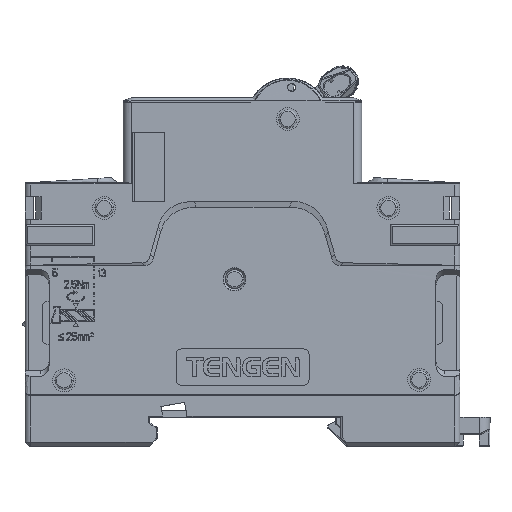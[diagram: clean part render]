
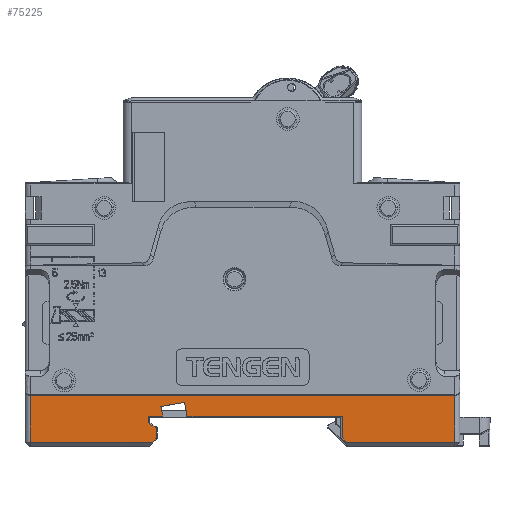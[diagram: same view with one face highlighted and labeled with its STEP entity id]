
A CAD part, left-side view. The second image highlights one B-rep face of the part: STEP entity #75225.
In plain terms, the highlighted planar face has unit normal (-1, 0, 0) as drawn and (0, 0, -1) by its records, which use the part's own axes.
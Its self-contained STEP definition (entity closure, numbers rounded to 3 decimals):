
#129 = VECTOR ( 'NONE', #210156, 1000. ) ;
#4464 = CARTESIAN_POINT ( 'NONE',  ( 52.39, 5.7, -14.2 ) ) ;
#7066 = CARTESIAN_POINT ( 'NONE',  ( 52.39, 5.7, -14.2 ) ) ;
#7176 = VECTOR ( 'NONE', #8109, 1000. ) ;
#7590 = CARTESIAN_POINT ( 'NONE',  ( 56.96, 5.7, -14.2 ) ) ;
#8109 = DIRECTION ( 'NONE',  ( 0.985, -0.174, 0. ) ) ;
#11420 = EDGE_CURVE ( 'NONE', #61239, #123619, #56031, .T. ) ;
#11960 = EDGE_CURVE ( 'NONE', #181299, #130968, #116634, .T. ) ;
#13525 = CARTESIAN_POINT ( 'NONE',  ( 59.655, 4.393, -14.2 ) ) ;
#14341 = ORIENTED_EDGE ( 'NONE', *, *, #20191, .T. ) ;
#14707 = DIRECTION ( 'NONE',  ( 1., 0., 0. ) ) ;
#14850 = ORIENTED_EDGE ( 'NONE', *, *, #93795, .F. ) ;
#20075 = ORIENTED_EDGE ( 'NONE', *, *, #95408, .F. ) ;
#20191 = EDGE_CURVE ( 'NONE', #103214, #181299, #58068, .T. ) ;
#21743 = CARTESIAN_POINT ( 'NONE',  ( 22.472, 0.8, -14.2 ) ) ;
#22197 = ORIENTED_EDGE ( 'NONE', *, *, #200316, .F. ) ;
#22971 = CARTESIAN_POINT ( 'NONE',  ( 2.105, 9.5, -14.2 ) ) ;
#24652 = EDGE_CURVE ( 'NONE', #103214, #190295, #38803, .T. ) ;
#28622 = VECTOR ( 'NONE', #186472, 1000. ) ;
#29593 = CARTESIAN_POINT ( 'NONE',  ( 59.655, 5.7, -14.2 ) ) ;
#30566 = DIRECTION ( 'NONE',  ( -1., 0., 0. ) ) ;
#31331 = VERTEX_POINT ( 'NONE', #154437 ) ;
#33677 = VECTOR ( 'NONE', #39914, 1000. ) ;
#38367 = LINE ( 'NONE', #21743, #81478 ) ;
#38803 = LINE ( 'NONE', #4464, #33677 ) ;
#39914 = DIRECTION ( 'NONE',  ( 0.174, 0.985, 0. ) ) ;
#43618 = DIRECTION ( 'NONE',  ( -1., 0., 0. ) ) ;
#44229 = DIRECTION ( 'NONE',  ( 0., 1., 0. ) ) ;
#47277 = VERTEX_POINT ( 'NONE', #29593 ) ;
#47918 = CARTESIAN_POINT ( 'NONE',  ( 23.255, 5.7, -14.2 ) ) ;
#56031 = LINE ( 'NONE', #189156, #129 ) ;
#56308 = VERTEX_POINT ( 'NONE', #195537 ) ;
#57295 = LINE ( 'NONE', #192557, #106983 ) ;
#58068 = LINE ( 'NONE', #7066, #164354 ) ;
#60121 = CARTESIAN_POINT ( 'NONE',  ( 81.805, 9.5, -14.2 ) ) ;
#60745 = VECTOR ( 'NONE', #180007, 1000. ) ;
#61239 = VERTEX_POINT ( 'NONE', #113084 ) ;
#64987 = CARTESIAN_POINT ( 'NONE',  ( 57.277, 7.5, -14.2 ) ) ;
#67581 = ORIENTED_EDGE ( 'NONE', *, *, #218036, .T. ) ;
#68360 = EDGE_CURVE ( 'NONE', #31331, #79746, #180663, .T. ) ;
#71148 = LINE ( 'NONE', #87813, #136611 ) ;
#72379 = LINE ( 'NONE', #154512, #152696 ) ;
#75225 = ADVANCED_FACE ( 'NONE', ( #98981 ), #128955, .F. ) ;
#75335 = EDGE_CURVE ( 'NONE', #174355, #130968, #71148, .T. ) ;
#76807 = CARTESIAN_POINT ( 'NONE',  ( 52.845, 8.281, -14.2 ) ) ;
#78626 = CARTESIAN_POINT ( 'NONE',  ( 58.155, 1.583, -14.2 ) ) ;
#79746 = VERTEX_POINT ( 'NONE', #176879 ) ;
#80072 = CARTESIAN_POINT ( 'NONE',  ( 81.805, 0.8, -14.2 ) ) ;
#81478 = VECTOR ( 'NONE', #140358, 1000. ) ;
#84514 = DIRECTION ( 'NONE',  ( 0.707, 0.707, 0. ) ) ;
#85375 = CARTESIAN_POINT ( 'NONE',  ( 23.255, 5.7, -14.2 ) ) ;
#86595 = ORIENTED_EDGE ( 'NONE', *, *, #11420, .T. ) ;
#87813 = CARTESIAN_POINT ( 'NONE',  ( 22.472, 0.8, -14.2 ) ) ;
#93466 = LINE ( 'NONE', #60121, #118853 ) ;
#93795 = EDGE_CURVE ( 'NONE', #189527, #79746, #161829, .T. ) ;
#94255 = ORIENTED_EDGE ( 'NONE', *, *, #98162, .T. ) ;
#94296 = VERTEX_POINT ( 'NONE', #183692 ) ;
#95408 = EDGE_CURVE ( 'NONE', #61239, #56308, #95653, .T. ) ;
#95653 = LINE ( 'NONE', #80072, #159901 ) ;
#95976 = ORIENTED_EDGE ( 'NONE', *, *, #170422, .F. ) ;
#98162 = EDGE_CURVE ( 'NONE', #189527, #47277, #213250, .T. ) ;
#98281 = CARTESIAN_POINT ( 'NONE',  ( 58.155, 1.583, -14.2 ) ) ;
#98981 = FACE_OUTER_BOUND ( 'NONE', #216655, .T. ) ;
#103084 = VECTOR ( 'NONE', #44229, 1000. ) ;
#103214 = VERTEX_POINT ( 'NONE', #129906 ) ;
#104676 = EDGE_CURVE ( 'NONE', #56308, #128635, #93466, .T. ) ;
#104691 = CARTESIAN_POINT ( 'NONE',  ( 52.845, 8.281, -14.2 ) ) ;
#106111 = VERTEX_POINT ( 'NONE', #7590 ) ;
#106771 = DIRECTION ( 'NONE',  ( -0.174, -0.985, 0. ) ) ;
#106983 = VECTOR ( 'NONE', #30566, 1000. ) ;
#107946 = LINE ( 'NONE', #76807, #7176 ) ;
#108804 = CARTESIAN_POINT ( 'NONE',  ( 2.105, 9.5, -14.2 ) ) ;
#113084 = CARTESIAN_POINT ( 'NONE',  ( 81.805, 0.8, -14.2 ) ) ;
#113453 = CARTESIAN_POINT ( 'NONE',  ( 59.655, 4.393, -14.2 ) ) ;
#113536 = VECTOR ( 'NONE', #145181, 1000. ) ;
#116634 = LINE ( 'NONE', #47918, #28622 ) ;
#118853 = VECTOR ( 'NONE', #158902, 1000. ) ;
#123619 = VERTEX_POINT ( 'NONE', #207410 ) ;
#124971 = DIRECTION ( 'NONE',  ( 0., -1., 0. ) ) ;
#128635 = VERTEX_POINT ( 'NONE', #108804 ) ;
#128955 = PLANE ( 'NONE',  #199637 ) ;
#129906 = CARTESIAN_POINT ( 'NONE',  ( 52.39, 5.7, -14.2 ) ) ;
#130021 = CARTESIAN_POINT ( 'NONE',  ( 49.555, 51.5, -14.2 ) ) ;
#130485 = ORIENTED_EDGE ( 'NONE', *, *, #212091, .T. ) ;
#130968 = VERTEX_POINT ( 'NONE', #215816 ) ;
#132890 = ORIENTED_EDGE ( 'NONE', *, *, #24652, .F. ) ;
#136611 = VECTOR ( 'NONE', #84514, 1000. ) ;
#140358 = DIRECTION ( 'NONE',  ( -1., 0., 0. ) ) ;
#141903 = CARTESIAN_POINT ( 'NONE',  ( 59.655, 4.393, -14.2 ) ) ;
#145181 = DIRECTION ( 'NONE',  ( -0.834, -0.552, 0. ) ) ;
#145998 = LINE ( 'NONE', #98281, #146701 ) ;
#146701 = VECTOR ( 'NONE', #213616, 1000. ) ;
#146876 = ORIENTED_EDGE ( 'NONE', *, *, #164156, .F. ) ;
#152696 = VECTOR ( 'NONE', #106771, 1000. ) ;
#154437 = CARTESIAN_POINT ( 'NONE',  ( 58.155, 1.583, -14.2 ) ) ;
#154512 = CARTESIAN_POINT ( 'NONE',  ( 57.277, 7.5, -14.2 ) ) ;
#158902 = DIRECTION ( 'NONE',  ( -1., 0., 0. ) ) ;
#159901 = VECTOR ( 'NONE', #178832, 1000. ) ;
#161829 = LINE ( 'NONE', #141903, #113536 ) ;
#161968 = CARTESIAN_POINT ( 'NONE',  ( 22.472, 0.8, -14.2 ) ) ;
#164156 = EDGE_CURVE ( 'NONE', #190295, #200325, #107946, .T. ) ;
#164354 = VECTOR ( 'NONE', #43618, 1000. ) ;
#166632 = DIRECTION ( 'NONE',  ( 0., 0., 1. ) ) ;
#170422 = EDGE_CURVE ( 'NONE', #200325, #106111, #72379, .T. ) ;
#174355 = VERTEX_POINT ( 'NONE', #161968 ) ;
#176879 = CARTESIAN_POINT ( 'NONE',  ( 58.155, 3.4, -14.2 ) ) ;
#178832 = DIRECTION ( 'NONE',  ( 0., 1., 0. ) ) ;
#180007 = DIRECTION ( 'NONE',  ( 0., 1., 0. ) ) ;
#180663 = LINE ( 'NONE', #78626, #103084 ) ;
#181299 = VERTEX_POINT ( 'NONE', #85375 ) ;
#183692 = CARTESIAN_POINT ( 'NONE',  ( 2.105, 0.8, -14.2 ) ) ;
#185597 = ORIENTED_EDGE ( 'NONE', *, *, #11960, .T. ) ;
#186472 = DIRECTION ( 'NONE',  ( 0., -1., 0. ) ) ;
#187906 = EDGE_CURVE ( 'NONE', #128635, #94296, #209249, .T. ) ;
#189156 = CARTESIAN_POINT ( 'NONE',  ( 81.805, 0.8, -14.2 ) ) ;
#189527 = VERTEX_POINT ( 'NONE', #13525 ) ;
#190295 = VERTEX_POINT ( 'NONE', #104691 ) ;
#190503 = ORIENTED_EDGE ( 'NONE', *, *, #68360, .T. ) ;
#192557 = CARTESIAN_POINT ( 'NONE',  ( 59.655, 5.7, -14.2 ) ) ;
#195537 = CARTESIAN_POINT ( 'NONE',  ( 81.805, 9.5, -14.2 ) ) ;
#199637 = AXIS2_PLACEMENT_3D ( 'NONE', #130021, #166632, #14707 ) ;
#200316 = EDGE_CURVE ( 'NONE', #31331, #123619, #145998, .T. ) ;
#200325 = VERTEX_POINT ( 'NONE', #64987 ) ;
#204045 = ORIENTED_EDGE ( 'NONE', *, *, #75335, .F. ) ;
#207410 = CARTESIAN_POINT ( 'NONE',  ( 58.938, 0.8, -14.2 ) ) ;
#209249 = LINE ( 'NONE', #22971, #211599 ) ;
#210156 = DIRECTION ( 'NONE',  ( -1., 0., 0. ) ) ;
#211599 = VECTOR ( 'NONE', #124971, 1000. ) ;
#212091 = EDGE_CURVE ( 'NONE', #174355, #94296, #38367, .T. ) ;
#213250 = LINE ( 'NONE', #113453, #60745 ) ;
#213616 = DIRECTION ( 'NONE',  ( 0.707, -0.707, 0. ) ) ;
#214968 = ORIENTED_EDGE ( 'NONE', *, *, #187906, .F. ) ;
#215816 = CARTESIAN_POINT ( 'NONE',  ( 23.255, 1.583, -14.2 ) ) ;
#215998 = ORIENTED_EDGE ( 'NONE', *, *, #104676, .F. ) ;
#216655 = EDGE_LOOP ( 'NONE', ( #95976, #146876, #132890, #14341, #185597, #204045, #130485, #214968, #215998, #20075, #86595, #22197, #190503, #14850, #94255, #67581 ) ) ;
#218036 = EDGE_CURVE ( 'NONE', #47277, #106111, #57295, .T. ) ;
